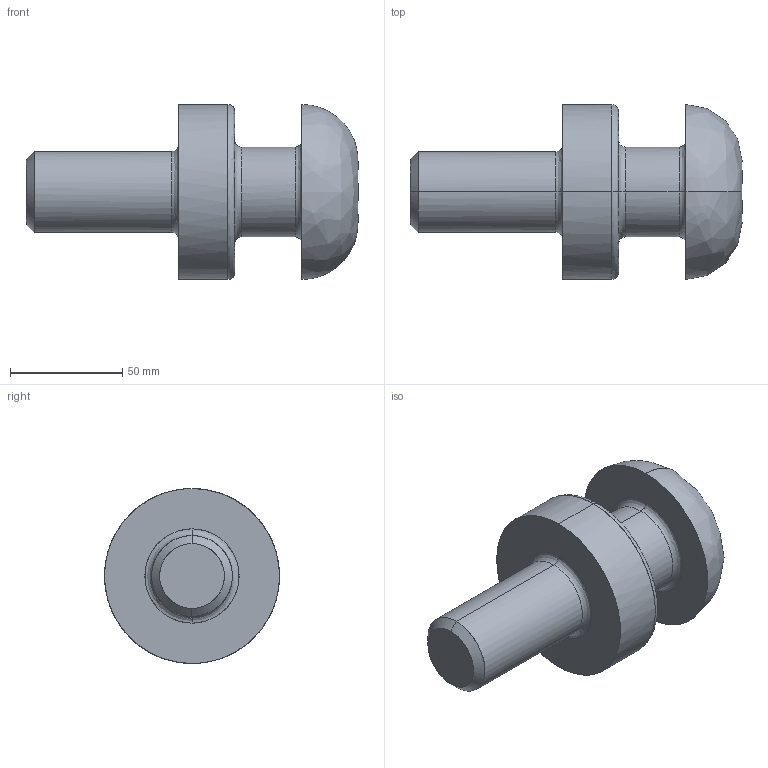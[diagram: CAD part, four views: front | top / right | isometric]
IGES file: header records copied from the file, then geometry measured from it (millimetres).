
Global section: file name: E:\UnigraphicsGraphicData\MISUMI_PRESS-PARTS\IGES\3d_chn36_03539_r00.igs; native system: NX V5.0; preprocessor: UGS NX IGES V5.0; author: MISUMI; date: 20110105.160221; units: millimetre
Bounding box: 148 x 78 x 78 mm (x, y, z)
Surface area: 38071.2 mm2 (no closed solid volume)
Topology: 0 solids, 0 shells, 35 faces, 262 edges, 262 vertices
Faces by surface type: bspline 35
